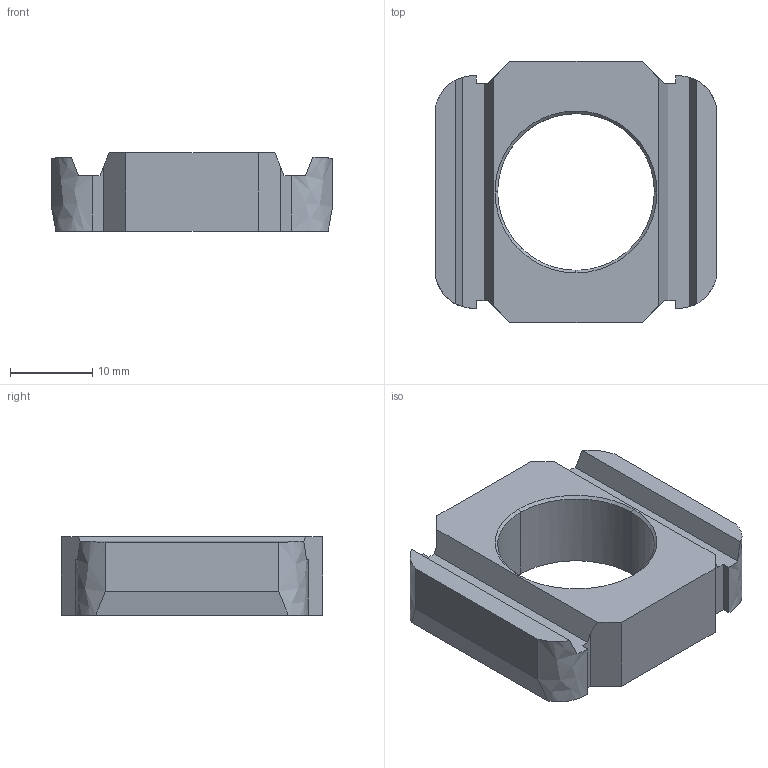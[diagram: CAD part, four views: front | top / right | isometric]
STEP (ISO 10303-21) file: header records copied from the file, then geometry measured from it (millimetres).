
FILE_DESCRIPTION(('TurboCAD Mac Pro'),'Build 980');
FILE_NAME('P1023.stp',' ',(''),(''),'ACIS Interop','IMSI','TurboCAD Mac Pro BY IMSI, INCORPORATED');
FILE_SCHEMA(('automotive_design'));
Length unit declared in the file: inch
Products named in the file (1): 1
Bounding box: 34.16 x 31.75 x 9.53 mm (x, y, z)
Volume: 6174.1 mm3; surface area: 3265.6 mm2
Topology: 1 solids, 1 shells, 40 faces, 110 edges, 72 vertices
Faces by surface type: plane 28, bspline 12
Entity records: 2038 total; most frequent: CARTESIAN_POINT 771, ORIENTED_EDGE 220, DIRECTION 136, EDGE_CURVE 110, LINE 78, VECTOR 78, VERTEX_POINT 72, EDGE_LOOP 42
